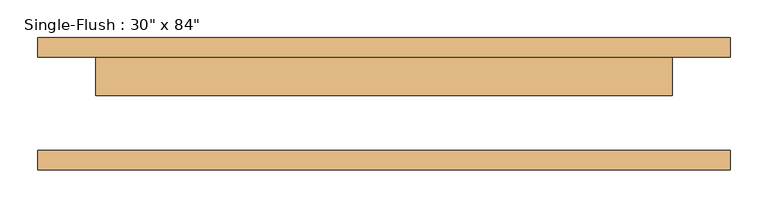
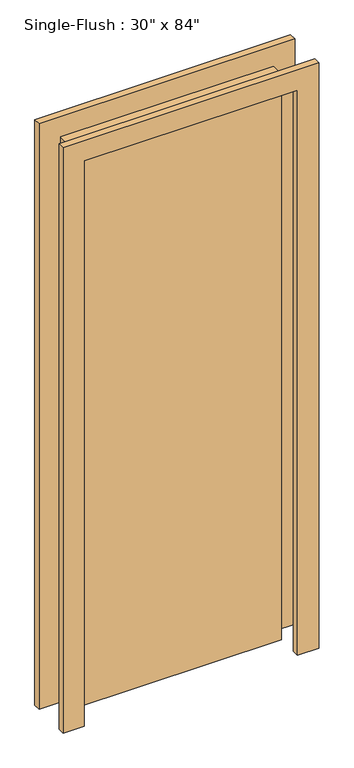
"""IFC4 building model written with IfcOpenShell, lengths in millimetres: door geometry."""

import ifcopenshell
import ifcopenshell.guid

model = None  # the IFC model being written
_history = None  # IfcOwnerHistory: only IFC2X3 demands one
_inside = {}  # id of a spatial element -> (the spatial element, [elements in it])
_under = {}  # id of a project, library or spatial element -> (it, [spatial elements below it])
_declared = {}  # id of a project -> (the project, [libraries it declares])
_typed = {}  # id of a type object -> (the type object, [elements of that type])
_made_of = {}  # id of a material, layer set ... -> (it, [elements and type objects made of it])


def new_model(schema):
    """Start an empty IFC model of exactly this schema.

    Asked for "IFC4X3", IfcOpenShell would pick the latest addendum, in which some entities
    have other attributes; the version numbers below select the first issue.
    IFC2X3 requires an IfcOwnerHistory on every rooted entity: one is made here for all.
    """
    global model, _history
    if schema == "IFC4X3":
        model = ifcopenshell.file(schema_version=(4, 3, 0, 0))
    else:
        model = ifcopenshell.file(schema=schema)
    _inside.clear()
    _under.clear()
    _declared.clear()
    _typed.clear()
    _made_of.clear()
    _history = None
    if model.schema == "IFC2X3":
        org = make("IfcOrganization", Name="unknown")
        user = make(
            "IfcPersonAndOrganization",
            ThePerson=make("IfcPerson", FamilyName="unknown"),
            TheOrganization=org,
        )
        app = make(
            "IfcApplication",
            ApplicationDeveloper=org,
            Version="unknown",
            ApplicationFullName="unknown",
            ApplicationIdentifier="unknown",
        )
        _history = make(
            "IfcOwnerHistory",
            OwningUser=user,
            OwningApplication=app,
            ChangeAction="ADDED",
            CreationDate=0,
        )
    return model


def make(cls, **values):
    """One entity of the class cls with the attributes given. An attribute that is None is left unset."""
    return model.create_entity(
        cls, **{name: value for name, value in values.items() if value is not None}
    )


def rooted(cls, **values):
    """An entity with a GlobalId (a new one), such as an element, a storey or a relation."""
    return make(cls, GlobalId=ifcopenshell.guid.new(), OwnerHistory=_history, **values)


def si_unit(unit_type, name, prefix=None):
    """IfcSIUnit, for example si_unit("LENGTHUNIT", "METRE", prefix="MILLI")."""
    return make("IfcSIUnit", UnitType=unit_type, Prefix=prefix, Name=name)


def assignment(units):
    """IfcUnitAssignment: the units of a project."""
    return None if units is None else make("IfcUnitAssignment", Units=units)


def point(xyz):
    """IfcCartesianPoint."""
    return None if xyz is None else make("IfcCartesianPoint", Coordinates=xyz)


def direction(xyz):
    """IfcDirection."""
    return None if xyz is None else make("IfcDirection", DirectionRatios=xyz)


def frame(location, z_axis=None, x_axis=None):
    """IfcAxis2Placement3D, a coordinate frame: its origin and axes. An axis left out is left unset."""
    return make(
        "IfcAxis2Placement3D",
        Location=point(location),
        Axis=direction(z_axis),
        RefDirection=direction(x_axis),
    )


def origin():
    """The frame at (0, 0, 0) with its axes left unset."""
    return frame((0.0, 0.0, 0.0))


def origin_with_axes():
    """The frame at (0, 0, 0) with the z axis (0, 0, 1) and the x axis (1, 0, 0) written out."""
    return frame((0.0, 0.0, 0.0), z_axis=(0.0, 0.0, 1.0), x_axis=(1.0, 0.0, 0.0))


def place(relative_to, where):
    """IfcLocalPlacement: puts the frame where relative to a parent placement (None: the world)."""
    return make(
        "IfcLocalPlacement", PlacementRelTo=relative_to, RelativePlacement=where
    )


def context(
    kind, dimensions, precision=None, world=None, true_north=None, identifier=None
):
    """IfcGeometricRepresentationContext, for example the 3D "Model" context."""
    return make(
        "IfcGeometricRepresentationContext",
        ContextIdentifier=identifier,
        ContextType=kind,
        CoordinateSpaceDimension=dimensions,
        Precision=precision,
        WorldCoordinateSystem=world,
        TrueNorth=true_north,
    )


def project(units=None, contexts=None):
    """IfcProject with its units and contexts."""
    return rooted(
        "IfcProject",
        Name="project",
        RepresentationContexts=contexts,
        UnitsInContext=assignment(units),
    )


def spatial(cls, under=None, at=None, **own):
    """A site, building, storey or space (cls), placed at a placement, below another one or the project."""
    s = rooted(cls, ObjectPlacement=at, **own)
    if under is not None:
        _under.setdefault(under.id(), (under, []))[1].append(s)
    return s


def polyline(points):
    """IfcPolyline through the points."""
    return make("IfcPolyline", Points=[point(p) for p in points])


def outline(outer, holes=None, kind="AREA"):
    """IfcArbitraryClosedProfileDef: a profile drawn as a closed curve; with holes, ...WithVoids."""
    if holes is None:
        return make("IfcArbitraryClosedProfileDef", ProfileType=kind, OuterCurve=outer)
    return make(
        "IfcArbitraryProfileDefWithVoids",
        ProfileType=kind,
        OuterCurve=outer,
        InnerCurves=holes,
    )


def extrude(swept, where, along, depth):
    """IfcExtrudedAreaSolid: the profile swept, set in the frame where, extruded along a direction by depth."""
    return make(
        "IfcExtrudedAreaSolid",
        SweptArea=swept,
        Position=where,
        ExtrudedDirection=direction(along),
        Depth=depth,
    )


def shape(context_of_items, identifier, shape_type, items):
    """IfcShapeRepresentation: the items that make up one representation, for example the "Body"."""
    return make(
        "IfcShapeRepresentation",
        ContextOfItems=context_of_items,
        RepresentationIdentifier=identifier,
        RepresentationType=shape_type,
        Items=items,
    )


def source(mapping_origin, context_of_items, identifier, shape_type, items):
    """IfcRepresentationMap: a shape defined once, which mapped items show again and again."""
    return make(
        "IfcRepresentationMap",
        MappingOrigin=mapping_origin,
        MappedRepresentation=shape(context_of_items, identifier, shape_type, items),
    )


def transform(
    local_origin,
    x_axis=None,
    y_axis=None,
    z_axis=None,
    scale=None,
    scale2=None,
    scale3=None,
    uniform=True,
):
    """IfcCartesianTransformationOperator3D, or its non-uniform kind. x_axis, y_axis, z_axis: its Axis1, 2, 3."""
    if uniform:
        return make(
            "IfcCartesianTransformationOperator3D",
            Axis1=direction(x_axis),
            Axis2=direction(y_axis),
            LocalOrigin=point(local_origin),
            Scale=scale,
            Axis3=direction(z_axis),
        )
    return make(
        "IfcCartesianTransformationOperator3DnonUniform",
        Axis1=direction(x_axis),
        Axis2=direction(y_axis),
        LocalOrigin=point(local_origin),
        Scale=scale,
        Axis3=direction(z_axis),
        Scale2=scale2,
        Scale3=scale3,
    )


def mapped(mapping_source, mapping_target):
    """IfcMappedItem: shows the shape of a source again, moved by a transform."""
    return make(
        "IfcMappedItem", MappingSource=mapping_source, MappingTarget=mapping_target
    )


def made_of(thing, what):
    """Note that an element or type object is made of a material, layer set ...; save() writes the relation."""
    if what is not None:
        _made_of.setdefault(what.id(), (what, []))[1].append(thing)
    return thing


def element(
    cls,
    number,
    at=None,
    inside=None,
    cuts=None,
    type_object=None,
    material=None,
    context=None,
    identifier="Body",
    shape_type=None,
    held_by="IfcProductDefinitionShape",
    body=None,
    shapes=None,
    **own,
):
    """One element of the class cls, such as IfcWall. Its Tag is "e" and its number.

    at: its placement. inside: the storey or other place that contains it. cuts: it is an
    opening in that element (IfcRelVoidsElement). A single representation is given by context,
    identifier, shape_type and body (its items); several are given by shapes. held_by: the class
    of the entity that holds the representations. save() writes the other relations.
    """
    e = rooted(cls, Tag="e%d" % number, ObjectPlacement=at, **own)
    if body is not None:
        shapes = [shape(context, identifier, shape_type, body)]
    if shapes is not None:
        e.Representation = make(held_by, Representations=shapes)
    if inside is not None:
        _inside.setdefault(inside.id(), (inside, []))[1].append(e)
    if cuts is not None:
        rooted(
            "IfcRelVoidsElement", RelatingBuildingElement=cuts, RelatedOpeningElement=e
        )
    if type_object is not None:
        _typed.setdefault(type_object.id(), (type_object, []))[1].append(e)
    return made_of(e, material)


def aggregate(whole, parts):
    """IfcRelAggregates: a whole, such as a stair, and the parts it consists of."""
    return rooted("IfcRelAggregates", RelatingObject=whole, RelatedObjects=parts)


def save(model, path):
    """Write the relations noted so far, then the file.

    IfcRelAggregates (storeys below a building ...), IfcRelContainedInSpatialStructure (elements
    in a storey), IfcRelDefinesByType, IfcRelAssociatesMaterial and IfcRelDeclares: one each for
    every whole, place, type object, material and project.
    """
    for whole, parts in _under.values():
        aggregate(whole, parts)
    for where, things in _inside.values():
        rooted(
            "IfcRelContainedInSpatialStructure",
            RelatedElements=things,
            RelatingStructure=where,
        )
    for kind, things in _typed.values():
        rooted("IfcRelDefinesByType", RelatedObjects=things, RelatingType=kind)
    for what, things in _made_of.values():
        rooted("IfcRelAssociatesMaterial", RelatedObjects=things, RelatingMaterial=what)
    for by, libraries in _declared.values():
        rooted("IfcRelDeclares", RelatingContext=by, RelatedDefinitions=libraries)
    model.write(path)


def door_f8acb57e(model_context):
    return source(origin(), model_context, "Body", "SweptSolid", [
        extrude(outline(polyline([(2209.8, -457.2), (0.0, -457.2), (0.0, -381.0), (2133.6, -381.0), (2133.6, 381.0), (0.0, 381.0), (0.0, 457.2), (2209.8, 457.2), (2209.8, -457.2)])), frame((0.0, 61.9125, 0.0), z_axis=(0.0, 1.0, 0.0), x_axis=(0.0, 0.0, 1.0)), (0.0, 0.0, 1.0), 25.4),
        extrude(outline(polyline([(2209.8, 457.2), (2209.8, -457.2), (0.0, -457.2), (0.0, -381.0), (2133.6, -381.0), (2133.6, 381.0), (0.0, 381.0), (0.0, 457.2), (2209.8, 457.2)])), frame((0.0, -87.3125, 0.0), z_axis=(0.0, 1.0, 0.0), x_axis=(0.0, 0.0, 1.0)), (0.0, 0.0, 1.0), 25.4),
        extrude(outline(polyline([(381.0, 11.1125), (-381.0, 11.1125), (-381.0, 61.9125), (381.0, 61.9125), (381.0, 11.1125)])), origin_with_axes(), (0.0, 0.0, 1.0), 2133.6),
    ])


if __name__ == "__main__":
    model = new_model("IFC4")
    model_context = context("Model", 3, world=origin())
    ifc_project = project(units=[si_unit("LENGTHUNIT", "METRE", prefix="MILLI")], contexts=[model_context])
    site = spatial("IfcSite", under=ifc_project)
    building = spatial("IfcBuilding", under=site)
    placement = place(None, origin())
    door_shape = door_f8acb57e(model_context)
    element("IfcDoor", 1, ObjectType="Single-Flush : 30\" x 84\"", at=placement, inside=building, context=model_context, shape_type="MappedRepresentation", body=[
        mapped(door_shape, transform((0.0, 0.0, 0.0), x_axis=(1.0, 0.0, 0.0), y_axis=(0.0, 1.0, 0.0), z_axis=(0.0, 0.0, 1.0))),
    ])
    save(model, "model.ifc")
